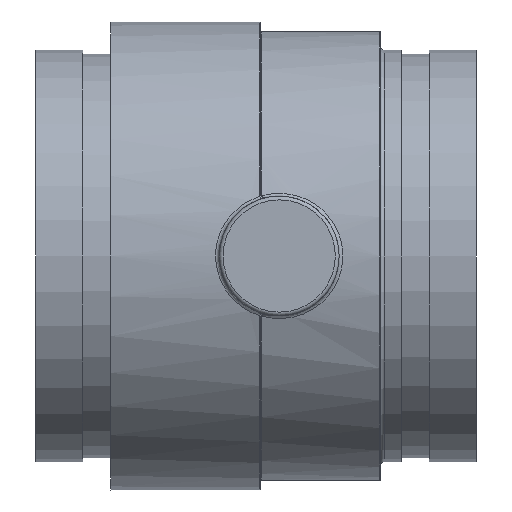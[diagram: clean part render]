
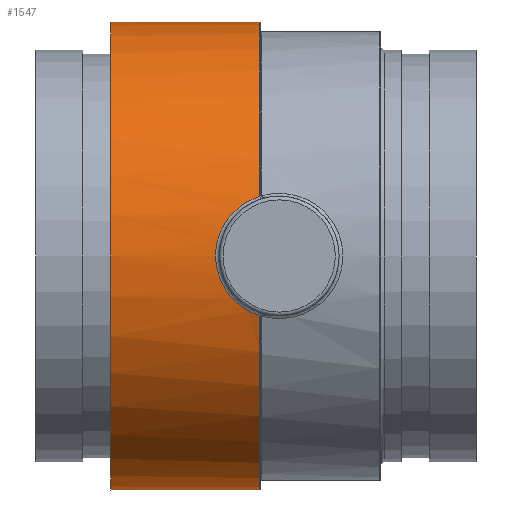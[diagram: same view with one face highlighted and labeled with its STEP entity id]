
A CAD part, front view. The second image highlights one B-rep face of the part: STEP entity #1547.
In plain terms, the highlighted cylindrical face has radius 79.375 mm (diameter 158.75 mm), a full revolution.
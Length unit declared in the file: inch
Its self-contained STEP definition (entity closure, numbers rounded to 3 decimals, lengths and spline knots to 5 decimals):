
#83=B_SPLINE_CURVE_WITH_KNOTS('',3,(#2893,#2894,#2895,#2896,#2897,#2898,
#2899),.UNSPECIFIED.,.F.,.F.,(4,1,1,1,4),(-5.47005,-4.68862,
-3.90718,-3.12575,-2.73502),.UNSPECIFIED.);
#84=B_SPLINE_CURVE_WITH_KNOTS('',3,(#2900,#2901,#2902,#2903,#2904,#2905,
#2906),.UNSPECIFIED.,.F.,.F.,(4,1,1,1,4),(-2.73502,-2.34431,
-1.17215,-0.78144,0.),
 .UNSPECIFIED.);
#90=B_SPLINE_CURVE_WITH_KNOTS('',3,(#3035,#3036,#3037,#3038,#3039),
 .UNSPECIFIED.,.F.,.F.,(4,1,4),(0.,0.10395,0.24254),
 .UNSPECIFIED.);
#91=B_SPLINE_CURVE_WITH_KNOTS('',3,(#3043,#3044,#3045,#3046,#3047),
 .UNSPECIFIED.,.F.,.F.,(4,1,4),(0.,0.10395,0.24255),
 .UNSPECIFIED.);
#197=FACE_OUTER_BOUND('',#291,.T.);
#291=EDGE_LOOP('',(#1181,#1182,#1183,#1184,#1185,#1186,#1187,#1188,#1189,
#1190,#1191,#1192,#1193));
#395=LINE('',#3033,#460);
#396=LINE('',#3049,#461);
#397=LINE('',#3052,#462);
#460=VECTOR('',#2079,0.3937);
#461=VECTOR('',#2082,0.3937);
#462=VECTOR('',#2085,3.125);
#533=CIRCLE('',#1710,3.125);
#534=CIRCLE('',#1711,3.125);
#535=CIRCLE('',#1712,3.125);
#536=CIRCLE('',#1713,3.125);
#537=CIRCLE('',#1714,3.125);
#663=VERTEX_POINT('',#2827);
#665=VERTEX_POINT('',#2890);
#666=VERTEX_POINT('',#2892);
#686=VERTEX_POINT('',#3030);
#687=VERTEX_POINT('',#3032);
#688=VERTEX_POINT('',#3034);
#689=VERTEX_POINT('',#3040);
#690=VERTEX_POINT('',#3042);
#691=VERTEX_POINT('',#3048);
#692=VERTEX_POINT('',#3051);
#693=VERTEX_POINT('',#3053);
#837=EDGE_CURVE('',#665,#666,#83,.T.);
#838=EDGE_CURVE('',#666,#663,#84,.T.);
#870=EDGE_CURVE('',#686,#665,#533,.T.);
#871=EDGE_CURVE('',#687,#686,#395,.T.);
#872=EDGE_CURVE('',#688,#687,#90,.T.);
#873=EDGE_CURVE('',#689,#688,#534,.T.);
#874=EDGE_CURVE('',#690,#689,#91,.T.);
#875=EDGE_CURVE('',#691,#690,#396,.T.);
#876=EDGE_CURVE('',#663,#691,#535,.T.);
#877=EDGE_CURVE('',#666,#692,#397,.T.);
#878=EDGE_CURVE('',#692,#693,#536,.T.);
#879=EDGE_CURVE('',#693,#692,#537,.T.);
#1181=ORIENTED_EDGE('',*,*,#837,.F.);
#1182=ORIENTED_EDGE('',*,*,#870,.F.);
#1183=ORIENTED_EDGE('',*,*,#871,.F.);
#1184=ORIENTED_EDGE('',*,*,#872,.F.);
#1185=ORIENTED_EDGE('',*,*,#873,.F.);
#1186=ORIENTED_EDGE('',*,*,#874,.F.);
#1187=ORIENTED_EDGE('',*,*,#875,.F.);
#1188=ORIENTED_EDGE('',*,*,#876,.F.);
#1189=ORIENTED_EDGE('',*,*,#838,.F.);
#1190=ORIENTED_EDGE('',*,*,#877,.T.);
#1191=ORIENTED_EDGE('',*,*,#878,.T.);
#1192=ORIENTED_EDGE('',*,*,#879,.T.);
#1193=ORIENTED_EDGE('',*,*,#877,.F.);
#1394=CYLINDRICAL_SURFACE('',#1709,3.125);
#1547=ADVANCED_FACE('',(#197),#1394,.T.);
#1709=AXIS2_PLACEMENT_3D('',#3029,#2075,#2076);
#1710=AXIS2_PLACEMENT_3D('',#3031,#2077,#2078);
#1711=AXIS2_PLACEMENT_3D('',#3041,#2080,#2081);
#1712=AXIS2_PLACEMENT_3D('',#3050,#2083,#2084);
#1713=AXIS2_PLACEMENT_3D('',#3054,#2086,#2087);
#1714=AXIS2_PLACEMENT_3D('',#3055,#2088,#2089);
#2075=DIRECTION('center_axis',(1.,0.,0.));
#2076=DIRECTION('ref_axis',(0.,1.,0.));
#2077=DIRECTION('center_axis',(1.,0.,0.));
#2078=DIRECTION('ref_axis',(0.,-1.,0.));
#2079=DIRECTION('',(1.,0.,0.));
#2080=DIRECTION('center_axis',(1.,0.,0.));
#2081=DIRECTION('ref_axis',(0.,1.,0.));
#2082=DIRECTION('',(-1.,0.,0.));
#2083=DIRECTION('center_axis',(1.,0.,0.));
#2084=DIRECTION('ref_axis',(0.,-1.,0.));
#2085=DIRECTION('',(-1.,0.,0.));
#2086=DIRECTION('center_axis',(1.,0.,0.));
#2087=DIRECTION('ref_axis',(0.,0.,1.));
#2088=DIRECTION('center_axis',(1.,0.,0.));
#2089=DIRECTION('ref_axis',(0.,0.,1.));
#2827=CARTESIAN_POINT('',(-0.26,-3.02179,-0.79651));
#2890=CARTESIAN_POINT('',(-0.26,-3.02179,0.79651));
#2892=CARTESIAN_POINT('',(-0.85,-3.125,0.));
#2893=CARTESIAN_POINT('Ctrl Pts',(-0.26,-3.02179,0.79651));
#2894=CARTESIAN_POINT('Ctrl Pts',(-0.35732,-3.0299,0.76574));
#2895=CARTESIAN_POINT('Ctrl Pts',(-0.53971,-3.05441,
0.66957));
#2896=CARTESIAN_POINT('Ctrl Pts',(-0.74413,-3.09759,
0.44081));
#2897=CARTESIAN_POINT('Ctrl Pts',(-0.83608,-3.12133,
0.20198));
#2898=CARTESIAN_POINT('Ctrl Pts',(-0.84998,-3.12499,0.05045));
#2899=CARTESIAN_POINT('Ctrl Pts',(-0.85001,-3.12501,
-0.00006));
#2900=CARTESIAN_POINT('Ctrl Pts',(-0.85001,-3.12501,
-0.00006));
#2901=CARTESIAN_POINT('Ctrl Pts',(-0.85003,-3.12502,
-0.05056));
#2902=CARTESIAN_POINT('Ctrl Pts',(-0.83168,-3.12031,
-0.25252));
#2903=CARTESIAN_POINT('Ctrl Pts',(-0.71601,-3.09002,
-0.48628));
#2904=CARTESIAN_POINT('Ctrl Pts',(-0.49403,-3.0482,
-0.69345));
#2905=CARTESIAN_POINT('Ctrl Pts',(-0.35732,-3.0299,-0.76574));
#2906=CARTESIAN_POINT('Ctrl Pts',(-0.26,-3.02179,-0.79651));
#3029=CARTESIAN_POINT('Origin',(-1.25,0.,0.));
#3030=CARTESIAN_POINT('',(-0.26,3.03669,0.73764));
#3031=CARTESIAN_POINT('Origin',(-0.26,0.,0.));
#3032=CARTESIAN_POINT('',(-0.52,3.03669,0.73764));
#3033=CARTESIAN_POINT('',(-1.25,3.03669,0.73764));
#3034=CARTESIAN_POINT('',(-0.58,3.0506,0.67783));
#3035=CARTESIAN_POINT('Ctrl Pts',(-0.58,3.0506,0.67783));
#3036=CARTESIAN_POINT('Ctrl Pts',(-0.58,3.04765,0.69111));
#3037=CARTESIAN_POINT('Ctrl Pts',(-0.5694,3.0405,0.72214));
#3038=CARTESIAN_POINT('Ctrl Pts',(-0.53819,3.03669,0.73764));
#3039=CARTESIAN_POINT('Ctrl Pts',(-0.52,3.03669,0.73764));
#3040=CARTESIAN_POINT('',(-0.58,3.0506,-0.67783));
#3041=CARTESIAN_POINT('Origin',(-0.58,0.,0.));
#3042=CARTESIAN_POINT('',(-0.52,3.03669,-0.73764));
#3043=CARTESIAN_POINT('Ctrl Pts',(-0.52,3.03669,-0.73764));
#3044=CARTESIAN_POINT('Ctrl Pts',(-0.53364,3.03669,-0.73764));
#3045=CARTESIAN_POINT('Ctrl Pts',(-0.56537,3.03949,-0.72628));
#3046=CARTESIAN_POINT('Ctrl Pts',(-0.58,3.04667,-0.69553));
#3047=CARTESIAN_POINT('Ctrl Pts',(-0.58,3.0506,-0.67783));
#3048=CARTESIAN_POINT('',(-0.26,3.03669,-0.73764));
#3049=CARTESIAN_POINT('',(-1.25,3.03669,-0.73764));
#3050=CARTESIAN_POINT('Origin',(-0.26,0.,0.));
#3051=CARTESIAN_POINT('',(-2.25,-3.125,0.));
#3052=CARTESIAN_POINT('',(-1.25,-3.125,0.));
#3053=CARTESIAN_POINT('',(-2.25,3.125,0.));
#3054=CARTESIAN_POINT('Origin',(-2.25,0.,0.));
#3055=CARTESIAN_POINT('Origin',(-2.25,0.,0.));
